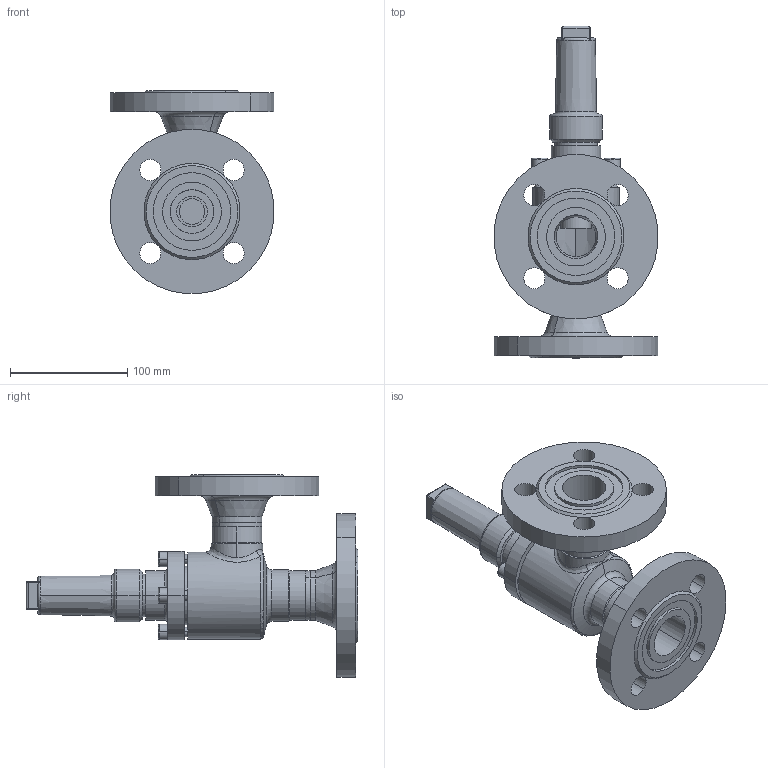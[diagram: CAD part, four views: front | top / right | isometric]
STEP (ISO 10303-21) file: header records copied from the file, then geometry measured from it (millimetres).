
FILE_DESCRIPTION (( 'STEP AP214' ), '1' );
FILE_NAME ('HRAR22420D13-DN032_DIN-FL-N_PS40.STEP', '2006-04-27T13:02:44', ( 'Herr Grams' ), ( 'AWP GmbH' ), 'SwSTEP 2.0', 'SolidWorks 2002296', '' );
FILE_SCHEMA (( 'AUTOMOTIVE_DESIGN' ));
Length unit declared in the file: millimetre
Products named in the file (9): HRAR22420D13-DN032_DIN-FL-N_PS40; Deckel26300E13-DN25-32_Standard; Gehäuse-kpl16420-DN032_DIN_PS40_Standard; Gehäuse16400-DN032_Standard; bead16420-Geh-032-2_Standard; bead16420-Geh-032-1_Standard; Flansch-DIN2635-Nut_PS40_DIN-Flansch-DN032_PS40-Nut; Kappe16402_DN010-32_Standard; Zylinderschraube-DIN912_M 8x 25
Assembly tree (12 placements, depth 3):
  HRAR22420D13-DN032_DIN-FL-N_PS40
    Zylinderschraube-DIN912_M 8x 25  x4
    Kappe16402_DN010-32_Standard
    Gehäuse-kpl16420-DN032_DIN_PS40_Standard
      Flansch-DIN2635-Nut_PS40_DIN-Flansch-DN032_PS40-Nut  x2
      bead16420-Geh-032-2_Standard
      Gehäuse16400-DN032_Standard
      bead16420-Geh-032-1_Standard
    Deckel26300E13-DN25-32_Standard
Bounding box: 139.47 x 282.5 x 172.73 mm (x, y, z)
Volume: 834963.5 mm3; surface area: 187568 mm2
Topology: 11 solids, 11 shells, 289 faces, 650 edges, 401 vertices
Faces by surface type: cylinder 118, plane 82, cone 52, torus 27, bspline 10
Entity records: 18418 total; most frequent: CARTESIAN_POINT 13078, DIRECTION 1036, ORIENTED_EDGE 920, EDGE_CURVE 460, AXIS2_PLACEMENT_3D 439, VERTEX_POINT 283, EDGE_LOOP 241, CIRCLE 230
